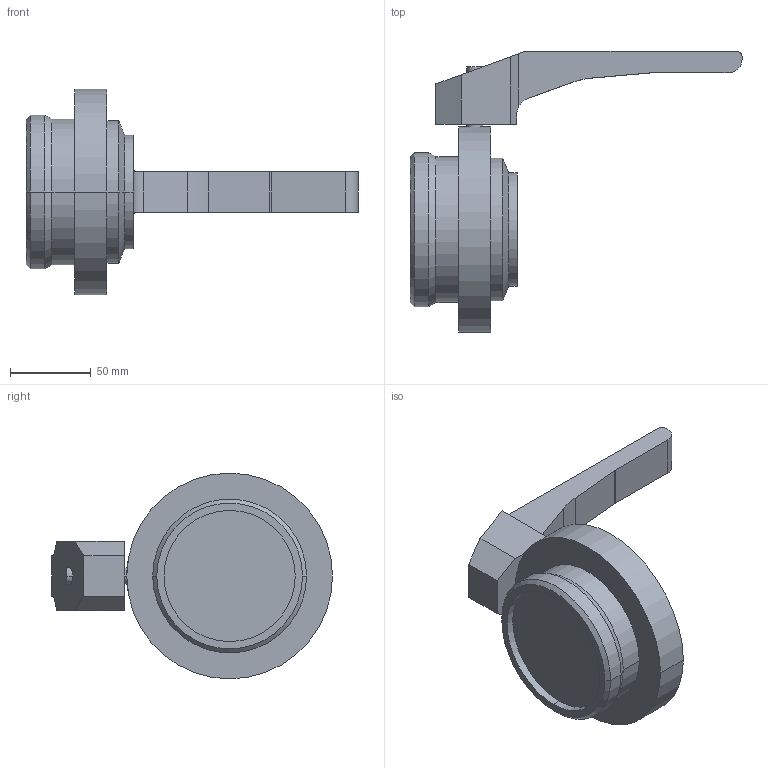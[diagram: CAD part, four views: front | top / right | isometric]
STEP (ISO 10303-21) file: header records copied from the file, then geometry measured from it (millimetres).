
FILE_DESCRIPTION(('Creo Elements/Direct Modeling STEP Export'),'2;1');
FILE_NAME('SV1-65-H-1S-2G.stp','2012-03-22T17:16:10',(''),(''),'Creo Elements/Direct Modeling STEP processor for AP214 (Solid Model)','Creo Elements/Direct Modeling 17.0D 15-Jul-2011 (C) Parametric Technology GmbH','');
FILE_SCHEMA(('AUTOMOTIVE_DESIGN { 1 0 10303 214 1 1 1 1 }'));
Length unit declared in the file: millimetre
Products named in the file (3): HANDHEBEL-SV-40-100; SV1-65-1S-2G; SV1-65-H-1S-2G-VEREINT
Assembly tree (2 placements, depth 2):
  SV1-65-H-1S-2G-VEREINT
    SV1-65-1S-2G
    HANDHEBEL-SV-40-100
Bounding box: 205 x 173.5 x 127 mm (x, y, z)
Volume: 620104.7 mm3; surface area: 69259.9 mm2
Topology: 2 solids, 2 shells, 54 faces, 123 edges, 78 vertices
Faces by surface type: plane 25, cylinder 23, cone 6
Entity records: 1551 total; most frequent: CARTESIAN_POINT 298, ORIENTED_EDGE 246, DIRECTION 243, EDGE_CURVE 123, AXIS2_PLACEMENT_3D 86, VERTEX_POINT 78, VECTOR 71, LINE 71
